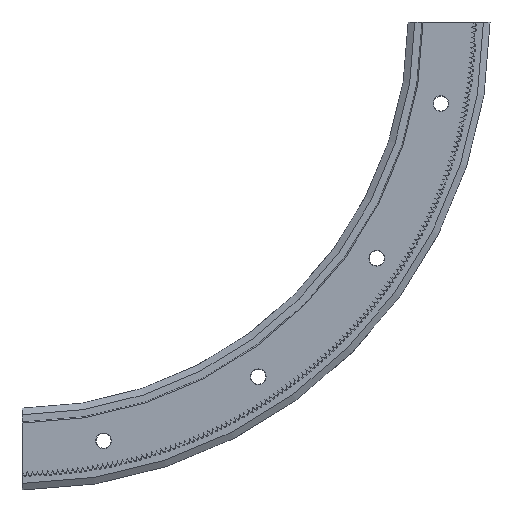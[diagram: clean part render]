
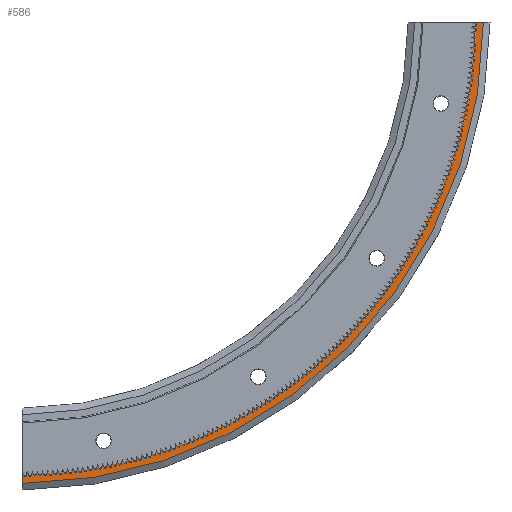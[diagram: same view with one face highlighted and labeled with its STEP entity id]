
A CAD part, front view. The second image highlights one B-rep face of the part: STEP entity #586.
In plain terms, the highlighted planar face has unit normal (0, -1, 0).
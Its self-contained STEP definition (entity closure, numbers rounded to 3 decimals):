
#586 = ADVANCED_FACE( '', ( #1980 ), #1981, .T. );
#1980 = FACE_OUTER_BOUND( '', #3760, .T. );
#1981 = PLANE( '', #3761 );
#3760 = EDGE_LOOP( '', ( #9231, #9232, #9233, #9234 ) );
#3761 = AXIS2_PLACEMENT_3D( '', #9235, #9236, #9237 );
#9231 = ORIENTED_EDGE( '', *, *, #13941, .T. );
#9232 = ORIENTED_EDGE( '', *, *, #13942, .T. );
#9233 = ORIENTED_EDGE( '', *, *, #13799, .F. );
#9234 = ORIENTED_EDGE( '', *, *, #11808, .T. );
#9235 = CARTESIAN_POINT( '', ( 0., 15., -420.95 ) );
#9236 = DIRECTION( '', ( 0., -1., 0. ) );
#9237 = DIRECTION( '', ( 0., 0., -1. ) );
#11808 = EDGE_CURVE( '', #14150, #14148, #14151, .T. );
#13799 = EDGE_CURVE( '', #14150, #17554, #17555, .T. );
#13941 = EDGE_CURVE( '', #14148, #17697, #17698, .T. );
#13942 = EDGE_CURVE( '', #17697, #17554, #17699, .T. );
#14148 = VERTEX_POINT( '', #17969 );
#14150 = VERTEX_POINT( '', #17974 );
#14151 = LINE( '', #17975, #17976 );
#17554 = VERTEX_POINT( '', #23227 );
#17555 = CIRCLE( '', #23228, 420.95 );
#17697 = VERTEX_POINT( '', #23371 );
#17698 = CIRCLE( '', #23372, 431.443 );
#17699 = LINE( '', #23373, #23374 );
#17969 = CARTESIAN_POINT( '', ( 2., 15., -431.439 ) );
#17974 = CARTESIAN_POINT( '', ( 2., 15., -420.945 ) );
#17975 = CARTESIAN_POINT( '', ( 2., 15., -420.95 ) );
#17976 = VECTOR( '', #23851, 1000. );
#23227 = CARTESIAN_POINT( '', ( 420.945, 15., -2. ) );
#23228 = AXIS2_PLACEMENT_3D( '', #26778, #26779, #26780 );
#23371 = CARTESIAN_POINT( '', ( 431.439, 15., -2. ) );
#23372 = AXIS2_PLACEMENT_3D( '', #27202, #27203, #27204 );
#23373 = CARTESIAN_POINT( '', ( 0., 15., -2. ) );
#23374 = VECTOR( '', #27205, 1000. );
#23851 = DIRECTION( '', ( 0., 0., -1. ) );
#26778 = CARTESIAN_POINT( '', ( 0., 15., 0. ) );
#26779 = DIRECTION( '', ( 0., -1., 0. ) );
#26780 = DIRECTION( '', ( 0., 0., -1. ) );
#27202 = CARTESIAN_POINT( '', ( 0., 15., 0. ) );
#27203 = DIRECTION( '', ( 0., -1., 0. ) );
#27204 = DIRECTION( '', ( 0., 0., -1. ) );
#27205 = DIRECTION( '', ( -1., 0., 0. ) );
